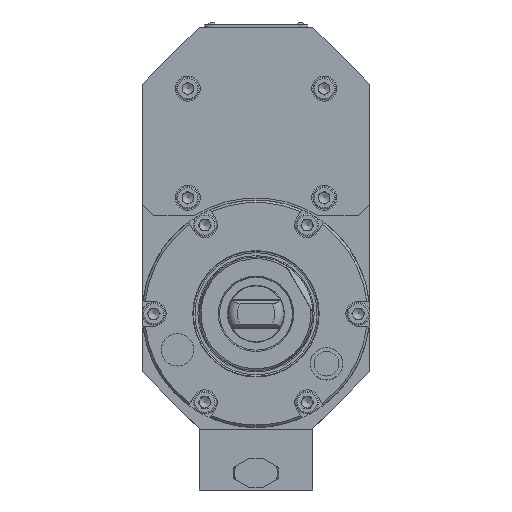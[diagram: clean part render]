
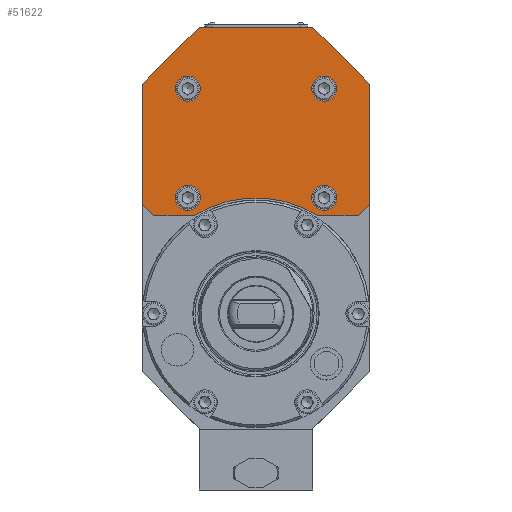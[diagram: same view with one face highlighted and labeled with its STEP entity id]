
A CAD part, left-side view. The second image highlights one B-rep face of the part: STEP entity #51622.
In plain terms, the highlighted planar face has unit normal (-1, 0, 0).
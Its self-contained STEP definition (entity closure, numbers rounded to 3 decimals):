
#22437=VECTOR('',#34622,1.);
#22444=VECTOR('',#34637,1.);
#22446=VECTOR('',#34641,1.);
#22447=VECTOR('',#34642,1.);
#22448=VECTOR('',#34643,1.);
#22449=VECTOR('',#34644,1.);
#22450=VECTOR('',#34645,1.);
#22451=VECTOR('',#34646,1.);
#22452=VECTOR('',#34649,1.);
#23531=LINE('',#39476,#22437);
#23538=LINE('',#39494,#22444);
#23540=LINE('',#39498,#22446);
#23541=LINE('',#39500,#22447);
#23542=LINE('',#39502,#22448);
#23543=LINE('',#39504,#22449);
#23544=LINE('',#39506,#22450);
#23545=LINE('',#39508,#22451);
#23546=LINE('',#39511,#22452);
#24900=ORIENTED_EDGE('',*,*,#30457,.F.);
#24901=ORIENTED_EDGE('',*,*,#30468,.T.);
#24902=ORIENTED_EDGE('',*,*,#30469,.F.);
#24903=ORIENTED_EDGE('',*,*,#30470,.T.);
#24904=ORIENTED_EDGE('',*,*,#30471,.F.);
#24905=ORIENTED_EDGE('',*,*,#30472,.T.);
#24906=ORIENTED_EDGE('',*,*,#30473,.F.);
#24907=ORIENTED_EDGE('',*,*,#30474,.F.);
#24908=ORIENTED_EDGE('',*,*,#30475,.F.);
#24909=ORIENTED_EDGE('',*,*,#30466,.T.);
#24910=ORIENTED_EDGE('',*,*,#30476,.F.);
#24911=ORIENTED_EDGE('',*,*,#30477,.F.);
#24912=ORIENTED_EDGE('',*,*,#30478,.F.);
#24913=ORIENTED_EDGE('',*,*,#30479,.F.);
#28591=CIRCLE('',#49674,51.);
#28592=CIRCLE('',#49675,5.5);
#28593=CIRCLE('',#49676,5.5);
#28594=CIRCLE('',#49677,5.5);
#28595=CIRCLE('',#49678,5.5);
#29137=VERTEX_POINT('',#39473);
#29138=VERTEX_POINT('',#39475);
#29145=VERTEX_POINT('',#39493);
#29146=VERTEX_POINT('',#39497);
#29147=VERTEX_POINT('',#39499);
#29148=VERTEX_POINT('',#39501);
#29149=VERTEX_POINT('',#39503);
#29150=VERTEX_POINT('',#39505);
#29151=VERTEX_POINT('',#39507);
#29152=VERTEX_POINT('',#39509);
#29153=VERTEX_POINT('',#39512);
#29154=VERTEX_POINT('',#39514);
#29155=VERTEX_POINT('',#39516);
#29156=VERTEX_POINT('',#39518);
#30457=EDGE_CURVE('',#29137,#29138,#23531,.T.);
#30466=EDGE_CURVE('',#29145,#29138,#23538,.T.);
#30468=EDGE_CURVE('',#29137,#29146,#23540,.T.);
#30469=EDGE_CURVE('',#29147,#29146,#23541,.T.);
#30470=EDGE_CURVE('',#29147,#29148,#23542,.T.);
#30471=EDGE_CURVE('',#29149,#29148,#23543,.T.);
#30472=EDGE_CURVE('',#29149,#29150,#23544,.T.);
#30473=EDGE_CURVE('',#29151,#29150,#23545,.T.);
#30474=EDGE_CURVE('',#29152,#29151,#28591,.T.);
#30475=EDGE_CURVE('',#29145,#29152,#23546,.T.);
#30476=EDGE_CURVE('',#29153,#29153,#28592,.T.);
#30477=EDGE_CURVE('',#29154,#29154,#28593,.T.);
#30478=EDGE_CURVE('',#29155,#29155,#28594,.T.);
#30479=EDGE_CURVE('',#29156,#29156,#28595,.T.);
#32332=EDGE_LOOP('',(#24900,#24901,#24902,#24903,#24904,#24905,#24906,#24907,
#24908,#24909));
#32333=EDGE_LOOP('',(#24910));
#32334=EDGE_LOOP('',(#24911));
#32335=EDGE_LOOP('',(#24912));
#32336=EDGE_LOOP('',(#24913));
#33447=FACE_BOUND('',#32332,.T.);
#33448=FACE_BOUND('',#32333,.T.);
#33449=FACE_BOUND('',#32334,.T.);
#33450=FACE_BOUND('',#32335,.T.);
#33451=FACE_BOUND('',#32336,.T.);
#34622=DIRECTION('',(0.,0.,-53.));
#34637=DIRECTION('',(0.,-5.,5.));
#34639=DIRECTION('',(-1.,0.,0.));
#34640=DIRECTION('',(0.,1.,0.));
#34641=DIRECTION('',(0.,25.,25.));
#34642=DIRECTION('',(0.,-50.,0.));
#34643=DIRECTION('',(0.,25.,-25.));
#34644=DIRECTION('',(0.,0.,53.));
#34645=DIRECTION('',(0.,-5.,-5.));
#34646=DIRECTION('',(0.,17.577,0.));
#34647=DIRECTION('',(-1.,0.,0.));
#34648=DIRECTION('',(0.,-27.423,43.));
#34649=DIRECTION('',(0.,17.577,0.));
#34650=DIRECTION('',(-1.,0.,0.));
#34651=DIRECTION('',(0.,-5.5,0.));
#34652=DIRECTION('',(-1.,0.,0.));
#34653=DIRECTION('',(0.,-5.5,0.));
#34654=DIRECTION('',(-1.,0.,0.));
#34655=DIRECTION('',(0.,-5.5,0.));
#34656=DIRECTION('',(-1.,0.,0.));
#34657=DIRECTION('',(0.,-5.5,0.));
#39473=CARTESIAN_POINT('',(0.5,-50.,101.));
#39475=CARTESIAN_POINT('',(0.5,-50.,48.));
#39476=CARTESIAN_POINT('',(0.5,-50.,101.));
#39493=CARTESIAN_POINT('',(0.5,-45.,43.));
#39494=CARTESIAN_POINT('',(0.5,-45.,43.));
#39496=CARTESIAN_POINT('',(0.5,-50.,43.));
#39497=CARTESIAN_POINT('',(0.5,-25.,126.));
#39498=CARTESIAN_POINT('',(0.5,-50.,101.));
#39499=CARTESIAN_POINT('',(0.5,25.,126.));
#39500=CARTESIAN_POINT('',(0.5,25.,126.));
#39501=CARTESIAN_POINT('',(0.5,50.,101.));
#39502=CARTESIAN_POINT('',(0.5,25.,126.));
#39503=CARTESIAN_POINT('',(0.5,50.,48.));
#39504=CARTESIAN_POINT('',(0.5,50.,48.));
#39505=CARTESIAN_POINT('',(0.5,45.,43.));
#39506=CARTESIAN_POINT('',(0.5,50.,48.));
#39507=CARTESIAN_POINT('',(0.5,27.423,43.));
#39508=CARTESIAN_POINT('',(0.5,27.423,43.));
#39509=CARTESIAN_POINT('',(0.5,-27.423,43.));
#39510=CARTESIAN_POINT('',(0.5,0.,0.));
#39511=CARTESIAN_POINT('',(0.5,-45.,43.));
#39512=CARTESIAN_POINT('',(0.5,-35.5,51.));
#39513=CARTESIAN_POINT('',(0.5,-30.,51.));
#39514=CARTESIAN_POINT('',(0.5,-35.5,99.));
#39515=CARTESIAN_POINT('',(0.5,-30.,99.));
#39516=CARTESIAN_POINT('',(0.5,24.5,51.));
#39517=CARTESIAN_POINT('',(0.5,30.,51.));
#39518=CARTESIAN_POINT('',(0.5,24.5,99.));
#39519=CARTESIAN_POINT('',(0.5,30.,99.));
#49673=AXIS2_PLACEMENT_3D('',#39496,#34639,#34640);
#49674=AXIS2_PLACEMENT_3D('',#39510,#34647,#34648);
#49675=AXIS2_PLACEMENT_3D('',#39513,#34650,#34651);
#49676=AXIS2_PLACEMENT_3D('',#39515,#34652,#34653);
#49677=AXIS2_PLACEMENT_3D('',#39517,#34654,#34655);
#49678=AXIS2_PLACEMENT_3D('',#39519,#34656,#34657);
#51089=PLANE('',#49673);
#51622=ADVANCED_FACE('',(#33447,#33448,#33449,#33450,#33451),#51089,.T.);
